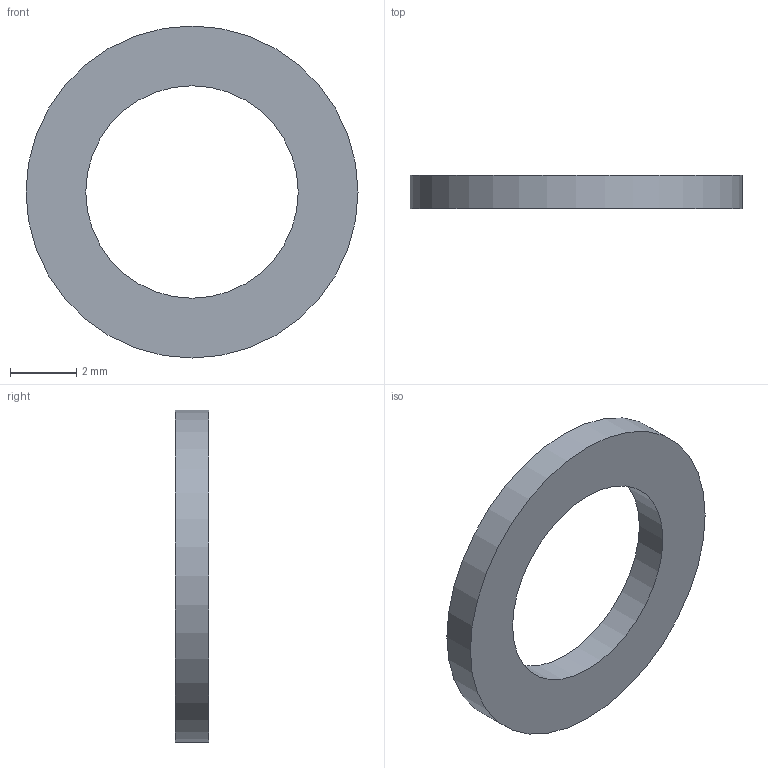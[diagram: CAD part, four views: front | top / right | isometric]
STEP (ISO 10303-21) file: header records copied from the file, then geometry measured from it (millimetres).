
FILE_DESCRIPTION(/* description */ (''),/* implementation_level */ '2;1');
FILE_NAME(/* name */ '',/* time_stamp */ '2024-11-28T15:23:20+09:00',/* author */ ('jhkim'),/* organization */ (''),/* preprocessor_version */ 'ST-DEVELOPER v20',/* originating_system */ 'Autodesk Inventor 2025',/* authorisation */ '');
FILE_SCHEMA (('AUTOMOTIVE_DESIGN { 1 0 10303 214 3 1 1 }'));
Length unit declared in the file: millimetre
Products named in the file (1): 실링
Bounding box: 10 x 1 x 10 mm (x, y, z)
Volume: 46.4 mm3; surface area: 144.3 mm2
Topology: 1 solids, 1 shells, 4 faces, 6 edges, 4 vertices
Faces by surface type: cylinder 2, plane 2
Full cylindrical faces by diameter (mm): 6.4 x1, 10 x1
Entity records: 141 total; most frequent: DIRECTION 20, CARTESIAN_POINT 15, ORIENTED_EDGE 12, AXIS2_PLACEMENT_3D 9, EDGE_LOOP 6, EDGE_CURVE 6, FACE_OUTER_BOUND 4, CIRCLE 4
